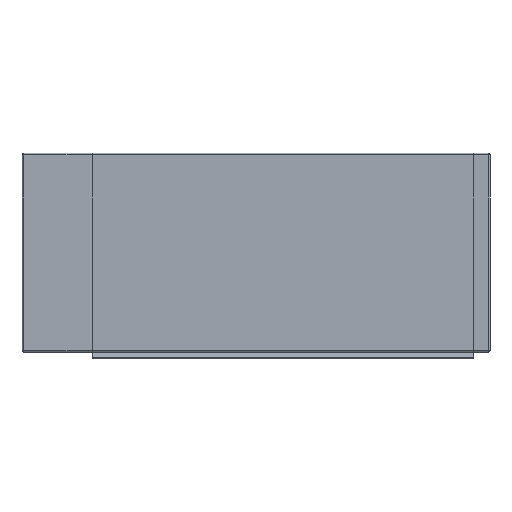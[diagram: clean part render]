
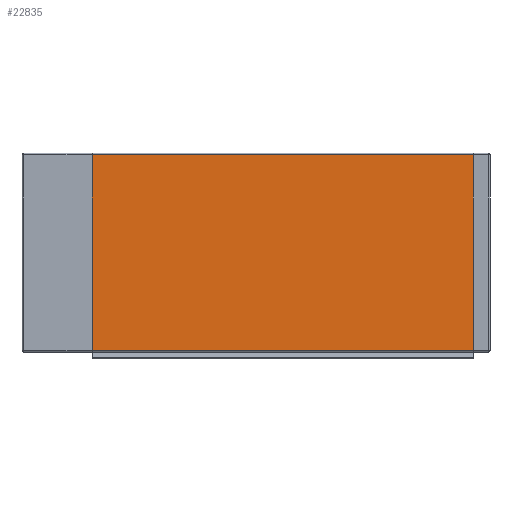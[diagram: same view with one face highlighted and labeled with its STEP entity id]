
A CAD part, front view. The second image highlights one B-rep face of the part: STEP entity #22835.
In plain terms, the highlighted planar face has unit normal (0, -1, 0).
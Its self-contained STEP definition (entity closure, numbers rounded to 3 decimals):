
#3 = VERTEX_POINT ( 'NONE', #10703 ) ;
#2033 = VECTOR ( 'NONE', #15856, 1000. ) ;
#2178 = LINE ( 'NONE', #6180, #10816 ) ;
#2473 = LINE ( 'NONE', #22991, #12359 ) ;
#3171 = EDGE_CURVE ( 'NONE', #3, #21561, #6964, .T. ) ;
#4692 = VECTOR ( 'NONE', #16405, 1000. ) ;
#5016 = VERTEX_POINT ( 'NONE', #16369 ) ;
#5648 = EDGE_LOOP ( 'NONE', ( #8109, #23863, #15622, #8310 ) ) ;
#6180 = CARTESIAN_POINT ( 'NONE',  ( -19.25, -12.5, 29.25 ) ) ;
#6482 = AXIS2_PLACEMENT_3D ( 'NONE', #25082, #15068, #9138 ) ;
#6964 = LINE ( 'NONE', #9896, #2033 ) ;
#8109 = ORIENTED_EDGE ( 'NONE', *, *, #3171, .F. ) ;
#8310 = ORIENTED_EDGE ( 'NONE', *, *, #20285, .T. ) ;
#9030 = LINE ( 'NONE', #13693, #4692 ) ;
#9138 = DIRECTION ( 'NONE',  ( 0., 0., -1. ) ) ;
#9896 = CARTESIAN_POINT ( 'NONE',  ( -133.25, -12.5, -29.25 ) ) ;
#10160 = DIRECTION ( 'NONE',  ( 0., 0., -1. ) ) ;
#10616 = EDGE_CURVE ( 'NONE', #25103, #5016, #2178, .T. ) ;
#10703 = CARTESIAN_POINT ( 'NONE',  ( -133.25, -12.5, -29.25 ) ) ;
#10816 = VECTOR ( 'NONE', #10160, 1000. ) ;
#10931 = EDGE_CURVE ( 'NONE', #5016, #3, #2473, .T. ) ;
#12359 = VECTOR ( 'NONE', #18883, 1000. ) ;
#12694 = FACE_OUTER_BOUND ( 'NONE', #5648, .T. ) ;
#12941 = PLANE ( 'NONE',  #6482 ) ;
#13693 = CARTESIAN_POINT ( 'NONE',  ( -114.25, -12.5, 29.25 ) ) ;
#14517 = CARTESIAN_POINT ( 'NONE',  ( -133.25, -12.5, 29.25 ) ) ;
#15068 = DIRECTION ( 'NONE',  ( 0., -1., 0. ) ) ;
#15622 = ORIENTED_EDGE ( 'NONE', *, *, #10616, .F. ) ;
#15856 = DIRECTION ( 'NONE',  ( 0., 0., 1. ) ) ;
#16369 = CARTESIAN_POINT ( 'NONE',  ( -19.25, -12.5, -29.25 ) ) ;
#16370 = CARTESIAN_POINT ( 'NONE',  ( -19.25, -12.5, 29.25 ) ) ;
#16405 = DIRECTION ( 'NONE',  ( -1., 0., 0. ) ) ;
#18883 = DIRECTION ( 'NONE',  ( -1., 0., 0. ) ) ;
#20285 = EDGE_CURVE ( 'NONE', #25103, #21561, #9030, .T. ) ;
#21561 = VERTEX_POINT ( 'NONE', #14517 ) ;
#22835 = ADVANCED_FACE ( 'NONE', ( #12694 ), #12941, .T. ) ;
#22991 = CARTESIAN_POINT ( 'NONE',  ( -114.25, -12.5, -29.25 ) ) ;
#23863 = ORIENTED_EDGE ( 'NONE', *, *, #10931, .F. ) ;
#25082 = CARTESIAN_POINT ( 'NONE',  ( -114.25, -12.5, -29.25 ) ) ;
#25103 = VERTEX_POINT ( 'NONE', #16370 ) ;
